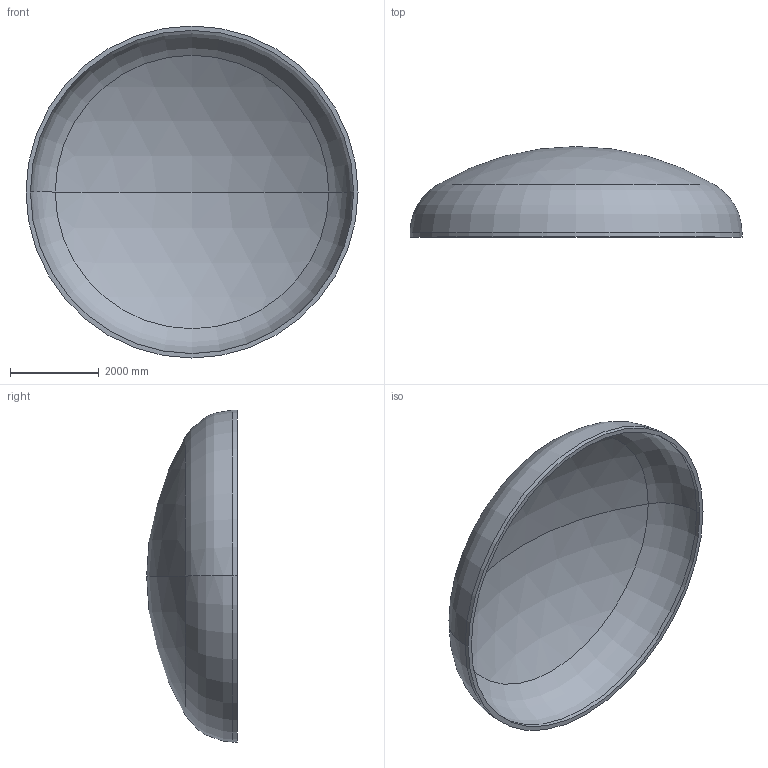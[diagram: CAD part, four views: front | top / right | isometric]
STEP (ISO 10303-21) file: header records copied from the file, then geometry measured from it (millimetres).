
FILE_DESCRIPTION (( 'STEP AP203' ), '1' );
FILE_NAME ('DIN 28013 Korbbogenform_-_Boden DIN 28013 - 7500 x 100 - I - s=100.step', '2016-07-04T10:56:59', ( '' ), ( '' ), 'SwSTEP 2.0', 'SolidWorks 2013', '' );
FILE_SCHEMA (( 'CONFIG_CONTROL_DESIGN' ));
Length unit declared in the file: millimetre
Products named in the file (1): DIN 28013 Korbbogenform_-_Boden DIN 28013 - 7500 x 100 - I - s=100
Bounding box: 7500 x 2046.81 x 7500 mm (x, y, z)
Volume: 6244282602 mm3; surface area: 127231326.8 mm2
Topology: 1 solids, 1 shells, 13 faces, 24 edges, 14 vertices
Faces by surface type: torus 4, cylinder 4, sphere 4, plane 1
Entity records: 407 total; most frequent: DIRECTION 72, CARTESIAN_POINT 52, ORIENTED_EDGE 48, AXIS2_PLACEMENT_3D 34, EDGE_CURVE 24, CIRCLE 20, EDGE_LOOP 14, VERTEX_POINT 14
